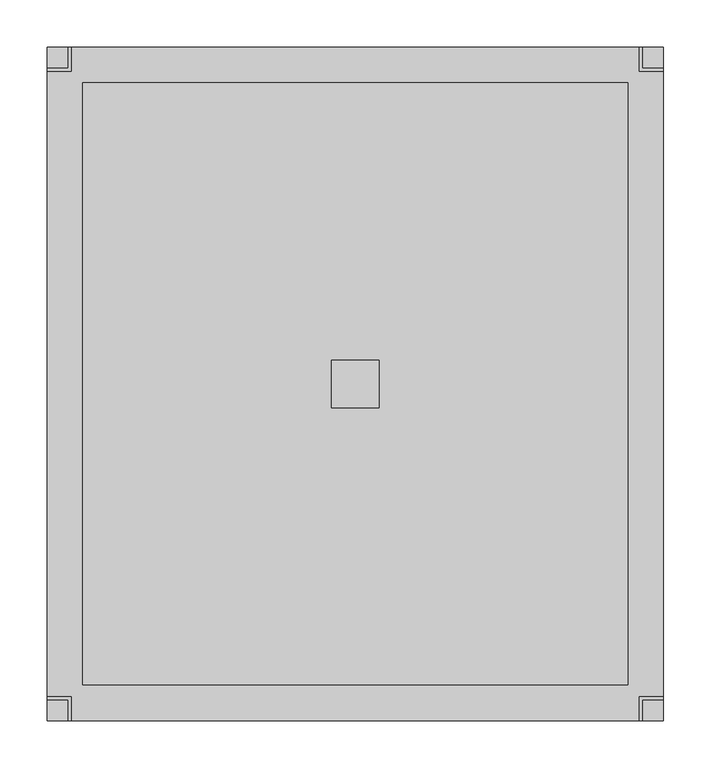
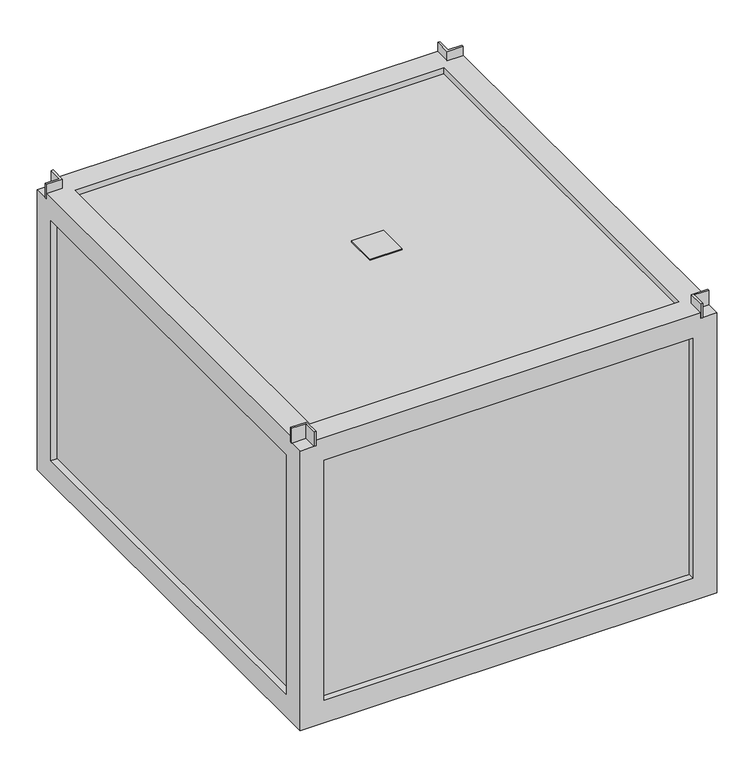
"""IFC4 building model written with IfcOpenShell, lengths in millimetres: proxy geometry, KORF_Вентилятор_UTR_WRH : UTR 50-25 WRH 25.4D (М)."""

from ifc_helpers import new_model, si_unit, frame, origin, place, context, project, spatial, polyline, outline, extrude, faceted_brep, source, transform, mapped, element, save


def mechanical_equipment_2c1e1821(model_context):
    return source(origin(), model_context, "Body", "SolidModel", [
        extrude(outline(polyline([(300.0, -25.0), (300.0, 25.0), (350.0, 25.0), (350.0, -25.0), (300.0, -25.0)])), frame((0.0, 0.0, 235.0), z_axis=(0.0, 0.0, 1.0), x_axis=(1.0, 0.0, 0.0)), (0.0, 0.0, 1.0), 2.0),
        extrude(outline(polyline([(25.0, 330.0), (0.0, 330.0), (0.0, 333.0), (22.0, 333.0), (22.0, 355.0), (25.0, 355.0), (25.0, 330.0)])), frame((0.0, 0.0, 226.0), z_axis=(0.0, 0.0, 1.0), x_axis=(1.0, 0.0, 0.0)), (0.0, 0.0, 1.0), 24.0),
        extrude(outline(polyline([(625.0, 330.0), (625.0, 355.0), (628.0, 355.0), (628.0, 333.0), (650.0, 333.0), (650.0, 330.0), (625.0, 330.0)])), frame((0.0, 0.0, 226.0), z_axis=(0.0, 0.0, 1.0), x_axis=(1.0, 0.0, 0.0)), (0.0, 0.0, 1.0), 24.0),
        extrude(outline(polyline([(25.0, -330.0), (25.0, -355.0), (22.0, -355.0), (22.0, -333.0), (0.0, -333.0), (0.0, -330.0), (25.0, -330.0)])), frame((0.0, 0.0, 226.0), z_axis=(0.0, 0.0, 1.0), x_axis=(1.0, 0.0, 0.0)), (0.0, 0.0, 1.0), 24.0),
        extrude(outline(polyline([(625.0, -330.0), (650.0, -330.0), (650.0, -333.0), (628.0, -333.0), (628.0, -355.0), (625.0, -355.0), (625.0, -330.0)])), frame((0.0, 0.0, 226.0), z_axis=(0.0, 0.0, 1.0), x_axis=(1.0, 0.0, 0.0)), (0.0, 0.0, 1.0), 24.0),
        extrude(outline(polyline([(640.0, 345.0), (640.0, -345.0), (10.0, -345.0), (10.0, 345.0), (640.0, 345.0)])), frame((0.0, 0.0, -225.0), z_axis=(0.0, 0.0, 1.0), x_axis=(1.0, 0.0, 0.0)), (0.0, 0.0, 1.0), 450.0),
        faceted_brep([(0.0, -354.9999993, -234.9999993), (650.0, -354.9999993, -234.9999993), (649.9999993, -354.9999993, 226.0), (625.0, -354.9999993, 226.0), (625.0, -354.9999993, 235.0), (25.0, -354.9999993, 234.9999993), (25.0, -354.9999993, 226.0), (0.0, -354.9999993, 226.0), (37.5, -354.9999993, -197.4999993), (37.5, -354.9999993, 197.5), (612.4999993, -354.9999993, 197.5), (612.4999993, -354.9999993, -197.4999993), (10.000001, -344.9999993, -224.9999993), (10.000001, -344.9999993, 224.9999993), (639.9999993, -344.9999993, 224.999999), (639.999999, -344.9999993, -224.9999993), (37.5, -344.9999993, 197.5), (37.5, -344.9999993, -197.4999993), (612.4999993, -344.9999993, -197.4999993), (612.4999993, -344.9999993, 197.5), (0.0, -317.4999993, 197.4999993), (10.000001, -317.4999993, 197.4999993), (10.000001, -317.4999993, -197.4999993), (0.0, -317.4999993, -197.4999993), (0.0, 354.9999993, -234.9999993), (650.0, 355.0, -234.9999993), (612.5, -317.5, -234.9999993), (612.5, 317.5, -234.9999993), (37.5, 317.5, -234.9999993), (37.5, -317.5, -234.9999993), (10.000001, 344.9999993, -224.9999993), (639.999999, 344.999999, -224.9999993), (612.5, 317.5, -224.9999993), (612.5, -317.5, -224.9999993), (37.5, -317.5, -224.9999993), (37.5, 317.5, -224.9999993), (10.000001, 317.4999993, -197.4999993), (0.0, 317.4999993, -197.4999993), (0.0, 354.9999993, 226.0), (25.0, 354.9999993, 226.0), (25.0, 354.9999993, 234.9999993), (625.0, 354.9999993, 235.0), (625.0, 354.9999993, 226.0), (649.9999993, 354.9999993, 226.0), (37.5, 354.9999993, 197.5), (37.5, 354.9999993, -197.4999993), (612.4999993, 354.9999993, -197.4999993), (612.4999993, 354.9999993, 197.5), (10.000001, 344.9999993, 224.9999993), (639.9999993, 344.9999993, 224.999999), (37.5, 344.9999993, -197.4999993), (37.5, 344.9999993, 197.5), (612.4999993, 344.9999993, 197.5), (612.4999993, 344.9999993, -197.4999993), (10.000001, 317.4999993, 197.4999993), (0.0, 317.4999993, 197.4999993), (0.0, -330.0, 226.0), (0.0, -330.0, 234.9999993), (0.0, 330.0, 234.9999993), (0.0, 330.0, 226.0), (625.0, -330.0, 234.9999993), (649.9999993, -330.0, 234.9999993), (649.9999993, 330.0, 234.9999993), (625.0, 330.0, 234.9999993), (25.0, 330.0, 234.9999993), (25.0, -330.0, 234.9999993), (612.4999993, 317.4999993, 234.9999993), (612.4999993, -317.4999993, 234.9999993), (37.5000007, -317.4999993, 234.9999993), (37.5, 317.4999993, 234.9999993), (37.5, -317.4999993, 224.9999993), (37.5, 317.4999993, 224.9999993), (612.4999993, -317.4999993, 224.9999993), (612.4999993, 317.4999993, 224.9999993), (649.9999993, 330.0, 226.0), (649.9999993, -330.0, 226.0), (649.9999993, -317.5, -197.5), (649.9999993, -317.5, 197.5), (649.9999993, 317.5, 197.5), (649.9999993, 317.5, -197.5), (639.9999993, -317.5, 197.5), (639.9999993, -317.5, -197.5), (639.9999993, 317.5, -197.4999993), (639.9999993, 317.5, 197.5), (25.0, 330.0, 226.0), (625.0, 330.0, 226.0), (625.0, -330.0, 226.0), (25.0, -330.0, 226.0)], [[[0, 1, 2, 3, 4, 5, 6, 7], [8, 9, 10, 11]], [[12, 13, 14, 15], [16, 17, 18, 19]], [[20, 21, 22, 23]], [[0, 24, 25, 1], [26, 27, 28, 29]], [[30, 12, 15, 31], [32, 33, 34, 35]], [[23, 22, 36, 37]], [[25, 24, 38, 39, 40, 41, 42, 43], [44, 45, 46, 47]], [[48, 30, 31, 49], [50, 51, 52, 53]], [[37, 36, 54, 55]], [[24, 0, 7, 56, 57, 58, 59, 38], [20, 23, 37, 55]], [[5, 4, 60, 61, 62, 63, 41, 40, 64, 58, 57, 65], [66, 67, 68, 69]], [[35, 34, 29, 28]], [[69, 68, 70, 71]], [[16, 9, 8, 17]], [[44, 51, 50, 45]], [[13, 48, 49, 14], [72, 73, 71, 70]], [[12, 30, 48, 13], [22, 21, 54, 36]], [[21, 20, 55, 54]], [[1, 25, 43, 74, 62, 61, 75, 2], [76, 77, 78, 79]], [[14, 49, 31, 15], [80, 81, 82, 83]], [[66, 73, 72, 67]], [[67, 72, 70, 68]], [[9, 16, 19, 10]], [[51, 44, 47, 52]], [[80, 83, 78, 77]], [[73, 66, 69, 71]], [[32, 27, 26, 33]], [[33, 26, 29, 34]], [[27, 32, 35, 28]], [[17, 8, 11, 18]], [[45, 50, 53, 46]], [[76, 79, 82, 81]], [[77, 76, 81, 80]], [[79, 78, 83, 82]], [[11, 10, 19, 18]], [[47, 46, 53, 52]], [[59, 84, 39, 38]], [[42, 85, 74, 43]], [[75, 86, 3, 2]], [[87, 56, 7, 6]], [[84, 59, 58, 64]], [[39, 84, 64, 40]], [[85, 42, 41, 63]], [[74, 85, 63, 62]], [[86, 75, 61, 60]], [[3, 86, 60, 4]], [[56, 87, 65, 57]], [[87, 6, 5, 65]]]),
    ])


if __name__ == "__main__":
    model = new_model("IFC4")
    model_context = context("Model", 3, world=origin())
    ifc_project = project(units=[si_unit("LENGTHUNIT", "METRE", prefix="MILLI")], contexts=[model_context])
    site = spatial("IfcSite", under=ifc_project)
    building = spatial("IfcBuilding", under=site)
    placement = place(None, origin())
    mechanical_equipment_shape = mechanical_equipment_2c1e1821(model_context)
    element("IfcBuildingElementProxy", 1, Name="KORF_Вентилятор_UTR_WRH : UTR 50-25 WRH 25.4D (М)", ObjectType="KORF_Вентилятор_UTR_WRH : UTR 50-25 WRH 25.4D (М)", at=placement, inside=building, context=model_context, shape_type="MappedRepresentation", body=[
        mapped(mechanical_equipment_shape, transform((0.0, 0.0, 0.0), x_axis=(1.0, 0.0, 0.0), y_axis=(0.0, 1.0, 0.0), z_axis=(0.0, 0.0, 1.0))),
    ])
    save(model, "model.ifc")
